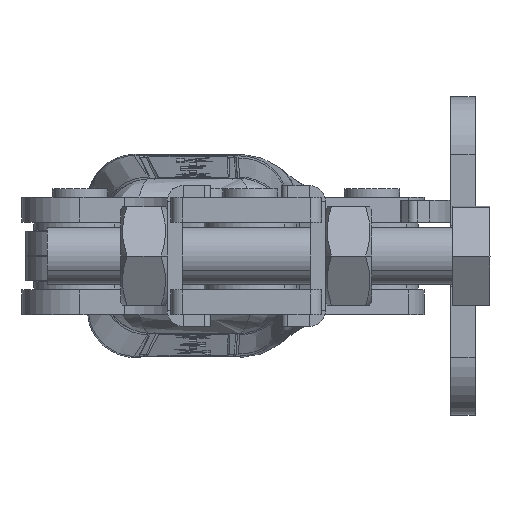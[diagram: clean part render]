
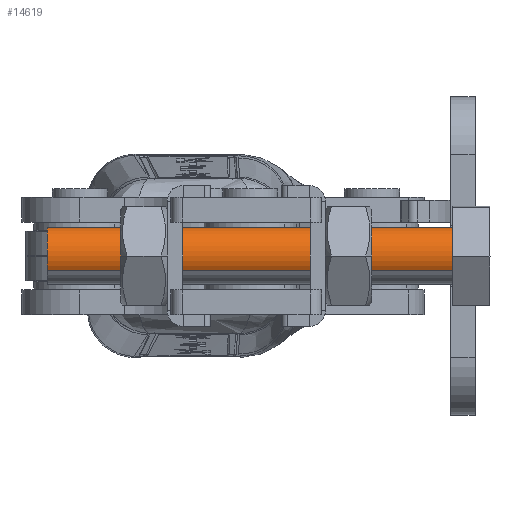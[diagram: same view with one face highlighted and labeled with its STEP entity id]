
A CAD part, left-side view. The second image highlights one B-rep face of the part: STEP entity #14619.
In plain terms, the highlighted cylindrical face has radius 5 mm (diameter 10 mm), a partial arc.
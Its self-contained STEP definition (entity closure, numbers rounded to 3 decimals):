
#186 = DIRECTION ( 'NONE',  ( 0., -1., 0. ) ) ;
#561 = CARTESIAN_POINT ( 'NONE',  ( 0., 0., 0. ) ) ;
#1247 = AXIS2_PLACEMENT_3D ( 'NONE', #561, #14229, #2533 ) ;
#2515 = EDGE_LOOP ( 'NONE', ( #4921, #22466, #13723, #11235 ) ) ;
#2533 = DIRECTION ( 'NONE',  ( 0., 0., 1. ) ) ;
#2690 = CIRCLE ( 'NONE', #3465, 5. ) ;
#3449 = DIRECTION ( 'NONE',  ( 0., 1., 0. ) ) ;
#3465 = AXIS2_PLACEMENT_3D ( 'NONE', #11890, #186, #13847 ) ;
#3708 = LINE ( 'NONE', #15344, #14106 ) ;
#4094 = VERTEX_POINT ( 'NONE', #24668 ) ;
#4424 = CYLINDRICAL_SURFACE ( 'NONE', #25042, 5. ) ;
#4921 = ORIENTED_EDGE ( 'NONE', *, *, #7997, .F. ) ;
#5329 = DIRECTION ( 'NONE',  ( 0., 1., 0. ) ) ;
#5796 = LINE ( 'NONE', #18730, #16210 ) ;
#6993 = EDGE_CURVE ( 'NONE', #7517, #4094, #2690, .T. ) ;
#7517 = VERTEX_POINT ( 'NONE', #11339 ) ;
#7997 = EDGE_CURVE ( 'NONE', #4094, #17393, #5796, .T. ) ;
#8943 = CARTESIAN_POINT ( 'NONE',  ( 0., 0., 5. ) ) ;
#11223 = CARTESIAN_POINT ( 'NONE',  ( 0., -70., 0. ) ) ;
#11235 = ORIENTED_EDGE ( 'NONE', *, *, #17920, .T. ) ;
#11339 = CARTESIAN_POINT ( 'NONE',  ( 0., -70., 5. ) ) ;
#11890 = CARTESIAN_POINT ( 'NONE',  ( 0., -70., 0. ) ) ;
#13723 = ORIENTED_EDGE ( 'NONE', *, *, #17764, .T. ) ;
#13847 = DIRECTION ( 'NONE',  ( 0., 0., -1. ) ) ;
#14106 = VECTOR ( 'NONE', #5329, 1000. ) ;
#14229 = DIRECTION ( 'NONE',  ( 0., -1., 0. ) ) ;
#14619 = ADVANCED_FACE ( 'NONE', ( #20603 ), #4424, .T. ) ;
#15344 = CARTESIAN_POINT ( 'NONE',  ( 0., -70., 5. ) ) ;
#16210 = VECTOR ( 'NONE', #16773, 1000. ) ;
#16773 = DIRECTION ( 'NONE',  ( 0., 1., 0. ) ) ;
#17114 = DIRECTION ( 'NONE',  ( 0., 0., 1. ) ) ;
#17393 = VERTEX_POINT ( 'NONE', #17603 ) ;
#17471 = CIRCLE ( 'NONE', #1247, 5. ) ;
#17603 = CARTESIAN_POINT ( 'NONE',  ( 0., 0., -5. ) ) ;
#17764 = EDGE_CURVE ( 'NONE', #7517, #19555, #3708, .T. ) ;
#17920 = EDGE_CURVE ( 'NONE', #19555, #17393, #17471, .T. ) ;
#18730 = CARTESIAN_POINT ( 'NONE',  ( 0., -70., -5. ) ) ;
#19555 = VERTEX_POINT ( 'NONE', #8943 ) ;
#20603 = FACE_OUTER_BOUND ( 'NONE', #2515, .T. ) ;
#22466 = ORIENTED_EDGE ( 'NONE', *, *, #6993, .F. ) ;
#24668 = CARTESIAN_POINT ( 'NONE',  ( 0., -70., -5. ) ) ;
#25042 = AXIS2_PLACEMENT_3D ( 'NONE', #11223, #3449, #17114 ) ;
